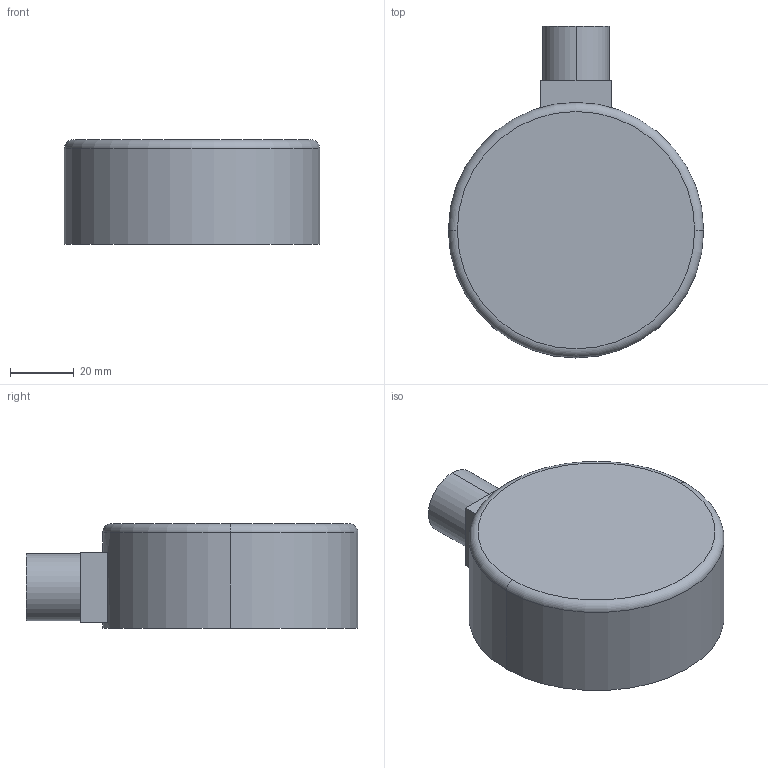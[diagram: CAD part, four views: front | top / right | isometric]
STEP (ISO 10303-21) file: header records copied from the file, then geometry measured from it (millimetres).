
FILE_DESCRIPTION (( 'STEP AP214' ), '1' );
FILE_NAME ('Manometr_grzewczy_hydrometr_x_0_3D_AFRISO.STEP', '2022-12-08T13:13:55', ( '' ), ( '' ), 'SwSTEP 2.0', 'SolidWorks 2022', '' );
FILE_SCHEMA (( 'AUTOMOTIVE_DESIGN' ));
Length unit declared in the file: millimetre
Products named in the file (1): Manometr_grzewczy_hydrometr_x_0_3D_AFRISO
Bounding box: 80 x 104 x 32.8 mm (x, y, z)
Volume: 173977.5 mm3; surface area: 19812.6 mm2
Topology: 1 solids, 1 shells, 14 faces, 28 edges, 18 vertices
Faces by surface type: plane 8, cylinder 4, torus 2
Entity records: 404 total; most frequent: DIRECTION 72, CARTESIAN_POINT 61, ORIENTED_EDGE 56, AXIS2_PLACEMENT_3D 29, EDGE_CURVE 28, VERTEX_POINT 18, EDGE_LOOP 16, VECTOR 14
